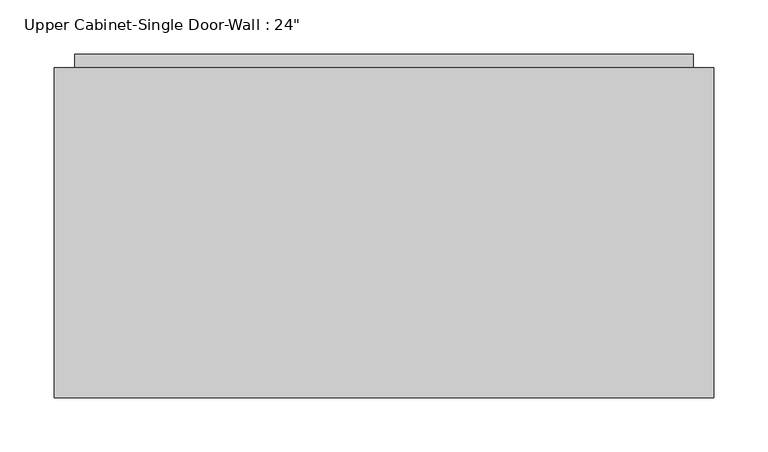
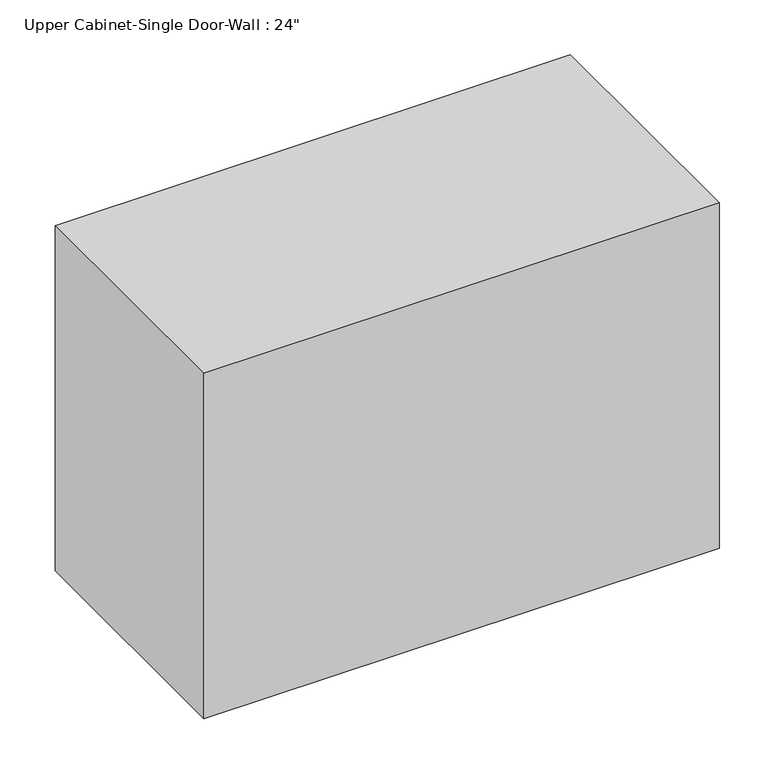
"""IFC4 building model written with IfcOpenShell, lengths in millimetres: furniture geometry."""

from ifc_helpers import new_model, si_unit, frame, origin, place, context, project, spatial, polyline, outline, extrude, faceted_brep, source, transform, mapped, element, save


def furniture_12663e75(model_context):
    return source(origin(), model_context, "Body", "SolidModel", [
        faceted_brep([(-351.2288372, 82.55, 2133.6), (-351.2288372, 82.55, 1701.8), (258.3711628, 82.55, 1701.8), (258.3711628, 82.55, 2133.6), (-351.2288372, 387.35, 2133.6), (258.3711628, 387.35, 2133.6), (258.3711628, 387.35, 1701.8), (-351.2288372, 387.35, 1701.8), (-332.1788372, 387.35, 2114.55), (-332.1788372, 387.35, 1720.85), (239.3211628, 387.35, 1720.85), (239.3211628, 387.35, 2114.55), (239.3211628, 101.6, 2114.55), (-332.1788372, 101.6, 2114.55), (239.3211628, 101.6, 1720.85), (-332.1788372, 101.6, 1720.85)], [[[0, 1, 2, 3]], [[4, 5, 6, 7], [8, 9, 10, 11]], [[1, 0, 4, 7]], [[2, 1, 7, 6]], [[3, 2, 6, 5]], [[0, 3, 5, 4]], [[8, 11, 12, 13]], [[11, 10, 14, 12]], [[10, 9, 15, 14]], [[9, 8, 13, 15]], [[13, 12, 14, 15]]]),
        extrude(outline(polyline([(-332.1788372, 400.05), (239.3211628, 400.05), (239.3211628, 368.3), (-332.1788372, 368.3), (-332.1788372, 400.05)])), frame((0.0, 0.0, 1720.85), z_axis=(0.0, 0.0, 1.0), x_axis=(1.0, 0.0, 0.0)), (0.0, 0.0, 1.0), 393.7),
    ])


if __name__ == "__main__":
    model = new_model("IFC4")
    model_context = context("Model", 3, world=origin())
    ifc_project = project(units=[si_unit("LENGTHUNIT", "METRE", prefix="MILLI")], contexts=[model_context])
    site = spatial("IfcSite", under=ifc_project)
    building = spatial("IfcBuilding", under=site)
    placement = place(None, origin())
    furniture_shape = furniture_12663e75(model_context)
    element("IfcFurniture", 1, ObjectType="Upper Cabinet-Single Door-Wall : 24\"", at=placement, inside=building, context=model_context, shape_type="MappedRepresentation", body=[
        mapped(furniture_shape, transform((0.0, 0.0, 0.0), x_axis=(1.0, 0.0, 0.0), y_axis=(0.0, 1.0, 0.0), z_axis=(0.0, 0.0, 1.0))),
    ])
    save(model, "model.ifc")
